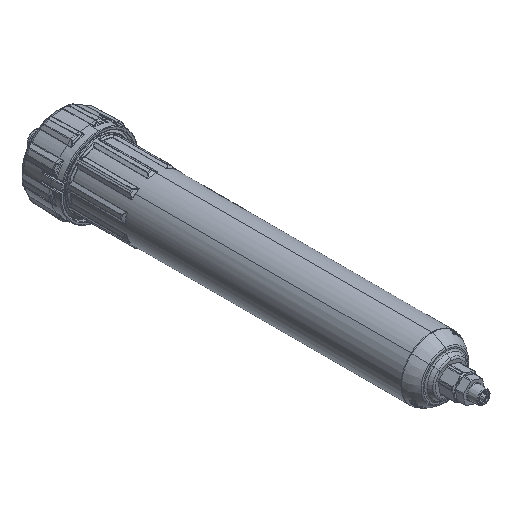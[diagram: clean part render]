
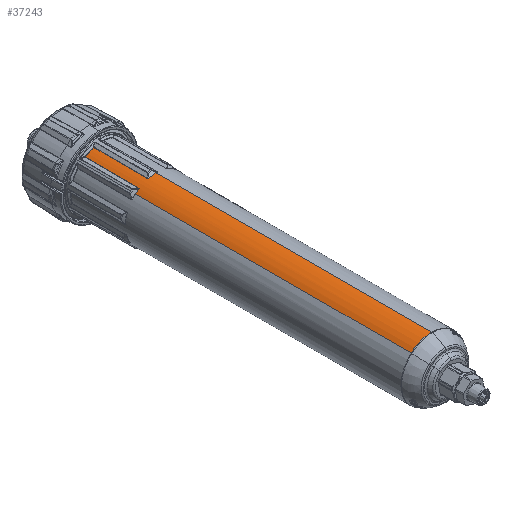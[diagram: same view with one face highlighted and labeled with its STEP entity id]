
A CAD part, isometric view. The second image highlights one B-rep face of the part: STEP entity #37243.
In plain terms, the highlighted cylindrical face has radius 24.638 mm (diameter 49.276 mm), a partial arc.
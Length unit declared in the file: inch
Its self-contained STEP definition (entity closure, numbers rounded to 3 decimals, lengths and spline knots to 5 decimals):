
#605 = CARTESIAN_POINT ( 'NONE',  ( 0., 10.99872, 0. ) ) ;
#2742 = CARTESIAN_POINT ( 'NONE',  ( -0.23479, 9.29164, 0.94116 ) ) ;
#5775 = CARTESIAN_POINT ( 'NONE',  ( 0., 9.29164, 0. ) ) ;
#9372 = CARTESIAN_POINT ( 'NONE',  ( -0.52551, 9.30697, 0.81532 ) ) ;
#10419 = VERTEX_POINT ( 'NONE', #56056 ) ;
#11155 = AXIS2_PLACEMENT_3D ( 'NONE', #605, #135446, #55576 ) ;
#12611 = DIRECTION ( 'NONE',  ( 0., 1., 0. ) ) ;
#13204 = CARTESIAN_POINT ( 'NONE',  ( -0.25427, 9.30954, 0.93608 ) ) ;
#17272 = B_SPLINE_CURVE_WITH_KNOTS ( 'NONE', 3,
 ( #145000, #9372, #113278, #43254, #41065, #18483, #133702, #32728, #110358, #29777 ),
 .UNSPECIFIED., .F., .F.,
 ( 4, 2, 2, 2, 4 ),
 ( 0., 0.00019, 0.00039, 0.00058, 0.00078 ),
 .UNSPECIFIED. ) ;
#18259 = FACE_OUTER_BOUND ( 'NONE', #96879, .T. ) ;
#18483 = CARTESIAN_POINT ( 'NONE',  ( -0.53191, 9.29423, 0.81116 ) ) ;
#19900 = ORIENTED_EDGE ( 'NONE', *, *, #60055, .T. ) ;
#19979 = CARTESIAN_POINT ( 'NONE',  ( -0.54231, 9.29164, 0.80424 ) ) ;
#22591 = CARTESIAN_POINT ( 'NONE',  ( -0.64906, 0.60823, 0.72085 ) ) ;
#22898 = VERTEX_POINT ( 'NONE', #85767 ) ;
#22954 = EDGE_CURVE ( 'NONE', #143824, #22898, #33712, .T. ) ;
#25373 = CARTESIAN_POINT ( 'NONE',  ( -0.64906, 9.29164, 0.72085 ) ) ;
#27861 = DIRECTION ( 'NONE',  ( 0., 1., 0. ) ) ;
#28722 = CARTESIAN_POINT ( 'NONE',  ( -0.25218, 9.29961, 0.93665 ) ) ;
#29331 = ORIENTED_EDGE ( 'NONE', *, *, #113143, .T. ) ;
#29777 = CARTESIAN_POINT ( 'NONE',  ( -0.54231, 9.29164, 0.80424 ) ) ;
#32728 = CARTESIAN_POINT ( 'NONE',  ( -0.53806, 9.29188, 0.80709 ) ) ;
#33712 = LINE ( 'NONE', #45725, #119420 ) ;
#37047 = CARTESIAN_POINT ( 'NONE',  ( -0.23479, 9.29164, 0.94116 ) ) ;
#37243 = ADVANCED_FACE ( 'NONE', ( #18259 ), #129805, .T. ) ;
#37468 = CARTESIAN_POINT ( 'NONE',  ( 0., 0.60823, 0. ) ) ;
#38208 = ORIENTED_EDGE ( 'NONE', *, *, #144907, .T. ) ;
#38540 = CARTESIAN_POINT ( 'NONE',  ( -0.24688, 9.29423, 0.93806 ) ) ;
#41065 = CARTESIAN_POINT ( 'NONE',  ( -0.52859, 9.29745, 0.81332 ) ) ;
#43254 = CARTESIAN_POINT ( 'NONE',  ( -0.52732, 9.29962, 0.81415 ) ) ;
#45725 = CARTESIAN_POINT ( 'NONE',  ( 0., 13.40031, 0.97 ) ) ;
#47472 = LINE ( 'NONE', #72255, #129293 ) ;
#49300 = VERTEX_POINT ( 'NONE', #2742 ) ;
#50683 = DIRECTION ( 'NONE',  ( 0., 0., 1. ) ) ;
#51541 = CIRCLE ( 'NONE', #135707, 0.97 ) ;
#54566 = AXIS2_PLACEMENT_3D ( 'NONE', #5775, #109679, #86329 ) ;
#55095 = VERTEX_POINT ( 'NONE', #25373 ) ;
#55576 = DIRECTION ( 'NONE',  ( 0., 0., -1. ) ) ;
#55669 = ORIENTED_EDGE ( 'NONE', *, *, #22954, .T. ) ;
#56056 = CARTESIAN_POINT ( 'NONE',  ( -0.52551, 10.99872, 0.81532 ) ) ;
#56635 = CARTESIAN_POINT ( 'NONE',  ( -0.52551, 13.40031, 0.81532 ) ) ;
#59690 = CARTESIAN_POINT ( 'NONE',  ( -0.52551, 9.30954, 0.81532 ) ) ;
#60055 = EDGE_CURVE ( 'NONE', #142734, #115233, #17272, .T. ) ;
#61559 = EDGE_CURVE ( 'NONE', #10419, #142734, #68627, .T. ) ;
#61969 = DIRECTION ( 'NONE',  ( 0., 0., 1. ) ) ;
#62701 = DIRECTION ( 'NONE',  ( 0., 1., 0. ) ) ;
#63119 = AXIS2_PLACEMENT_3D ( 'NONE', #118458, #62701, #50683 ) ;
#68627 = LINE ( 'NONE', #56635, #90953 ) ;
#71642 = CARTESIAN_POINT ( 'NONE',  ( -0.25427, 9.30697, 0.93608 ) ) ;
#72255 = CARTESIAN_POINT ( 'NONE',  ( -0.25427, 13.40031, 0.93608 ) ) ;
#72707 = EDGE_CURVE ( 'NONE', #22898, #49300, #51541, .T. ) ;
#74619 = CARTESIAN_POINT ( 'NONE',  ( -0.25394, 9.30442, 0.93617 ) ) ;
#76200 = ORIENTED_EDGE ( 'NONE', *, *, #81213, .T. ) ;
#81134 = ORIENTED_EDGE ( 'NONE', *, *, #90243, .T. ) ;
#81213 = EDGE_CURVE ( 'NONE', #96117, #97546, #47472, .T. ) ;
#82971 = CARTESIAN_POINT ( 'NONE',  ( -0.23974, 9.29188, 0.93991 ) ) ;
#83198 = AXIS2_PLACEMENT_3D ( 'NONE', #37468, #12611, #83390 ) ;
#83390 = DIRECTION ( 'NONE',  ( 0., 0., -1. ) ) ;
#85767 = CARTESIAN_POINT ( 'NONE',  ( 0., 9.29164, 0.97 ) ) ;
#86329 = DIRECTION ( 'NONE',  ( 0., 0., 1. ) ) ;
#89773 = ORIENTED_EDGE ( 'NONE', *, *, #61559, .T. ) ;
#90243 = EDGE_CURVE ( 'NONE', #97546, #10419, #100037, .T. ) ;
#90953 = VECTOR ( 'NONE', #148574, 39.37008 ) ;
#91452 = EDGE_CURVE ( 'NONE', #55095, #118499, #102124, .T. ) ;
#95143 = DIRECTION ( 'NONE',  ( 0., -1., 0. ) ) ;
#95471 = CIRCLE ( 'NONE', #54566, 0.97 ) ;
#96117 = VERTEX_POINT ( 'NONE', #13204 ) ;
#96879 = EDGE_LOOP ( 'NONE', ( #29331, #55669, #114348, #38208, #76200, #81134, #89773, #19900, #140879, #137689 ) ) ;
#97546 = VERTEX_POINT ( 'NONE', #108356 ) ;
#100037 = CIRCLE ( 'NONE', #11155, 0.97 ) ;
#100646 = DIRECTION ( 'NONE',  ( 0., -1., 0. ) ) ;
#102124 = LINE ( 'NONE', #148110, #128159 ) ;
#108356 = CARTESIAN_POINT ( 'NONE',  ( -0.25427, 10.99872, 0.93608 ) ) ;
#108655 = CARTESIAN_POINT ( 'NONE',  ( 0., 9.29164, 0. ) ) ;
#109265 = CARTESIAN_POINT ( 'NONE',  ( -0.24456, 9.29316, 0.93867 ) ) ;
#109648 = CIRCLE ( 'NONE', #83198, 0.97 ) ;
#109679 = DIRECTION ( 'NONE',  ( 0., -1., 0. ) ) ;
#110358 = CARTESIAN_POINT ( 'NONE',  ( -0.54018, 9.29164, 0.80568 ) ) ;
#113143 = EDGE_CURVE ( 'NONE', #118499, #143824, #109648, .T. ) ;
#113278 = CARTESIAN_POINT ( 'NONE',  ( -0.5258, 9.30438, 0.81513 ) ) ;
#114348 = ORIENTED_EDGE ( 'NONE', *, *, #72707, .T. ) ;
#115233 = VERTEX_POINT ( 'NONE', #19979 ) ;
#115241 = EDGE_CURVE ( 'NONE', #115233, #55095, #95471, .T. ) ;
#115760 = DIRECTION ( 'NONE',  ( 0., 1., 0. ) ) ;
#118458 = CARTESIAN_POINT ( 'NONE',  ( 0., 13.40031, 0. ) ) ;
#118499 = VERTEX_POINT ( 'NONE', #22591 ) ;
#119420 = VECTOR ( 'NONE', #115760, 39.37008 ) ;
#120559 = CARTESIAN_POINT ( 'NONE',  ( -0.25427, 9.30954, 0.93608 ) ) ;
#123140 = CARTESIAN_POINT ( 'NONE',  ( 0., 0.60823, 0.97 ) ) ;
#128159 = VECTOR ( 'NONE', #100646, 39.37008 ) ;
#128923 = CARTESIAN_POINT ( 'NONE',  ( -0.25072, 9.29745, 0.93704 ) ) ;
#129293 = VECTOR ( 'NONE', #27861, 39.37008 ) ;
#129683 = CARTESIAN_POINT ( 'NONE',  ( -0.23728, 9.29164, 0.94053 ) ) ;
#129805 = CYLINDRICAL_SURFACE ( 'NONE', #63119, 0.97 ) ;
#133702 = CARTESIAN_POINT ( 'NONE',  ( -0.53391, 9.29317, 0.80985 ) ) ;
#135446 = DIRECTION ( 'NONE',  ( 0., -1., 0. ) ) ;
#135707 = AXIS2_PLACEMENT_3D ( 'NONE', #108655, #95143, #61969 ) ;
#137439 = B_SPLINE_CURVE_WITH_KNOTS ( 'NONE', 3,
 ( #37047, #129683, #82971, #109265, #38540, #128923, #28722, #74619, #71642, #120559 ),
 .UNSPECIFIED., .F., .F.,
 ( 4, 2, 2, 2, 4 ),
 ( 0., 0.00019, 0.00039, 0.00058, 0.00078 ),
 .UNSPECIFIED. ) ;
#137689 = ORIENTED_EDGE ( 'NONE', *, *, #91452, .T. ) ;
#140879 = ORIENTED_EDGE ( 'NONE', *, *, #115241, .T. ) ;
#142734 = VERTEX_POINT ( 'NONE', #59690 ) ;
#143824 = VERTEX_POINT ( 'NONE', #123140 ) ;
#144907 = EDGE_CURVE ( 'NONE', #49300, #96117, #137439, .T. ) ;
#145000 = CARTESIAN_POINT ( 'NONE',  ( -0.52551, 9.30954, 0.81532 ) ) ;
#148110 = CARTESIAN_POINT ( 'NONE',  ( -0.64906, 13.40031, 0.72085 ) ) ;
#148574 = DIRECTION ( 'NONE',  ( 0., -1., 0. ) ) ;
